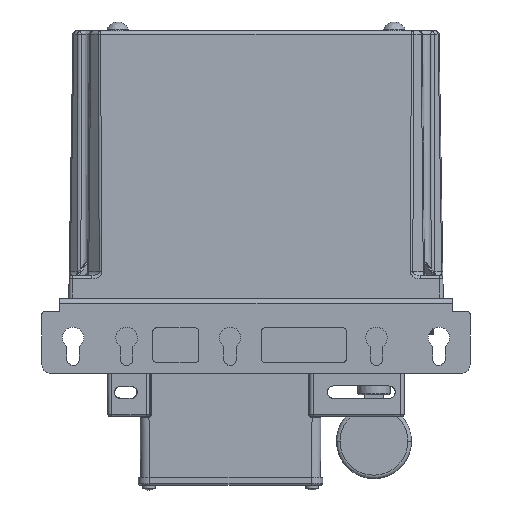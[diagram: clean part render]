
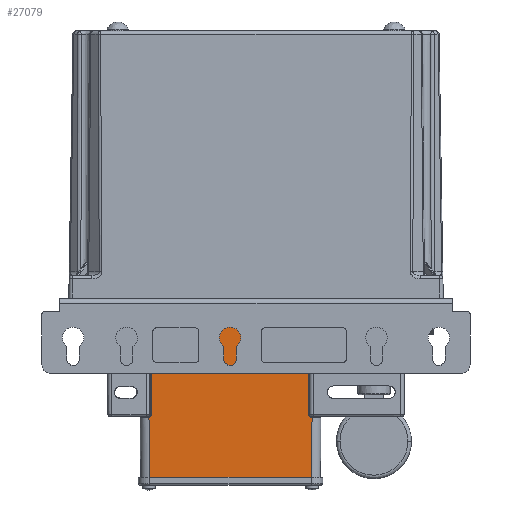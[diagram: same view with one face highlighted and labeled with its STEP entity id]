
A CAD part, front view. The second image highlights one B-rep face of the part: STEP entity #27079.
In plain terms, the highlighted planar face has unit normal (0, -1, -0.009).
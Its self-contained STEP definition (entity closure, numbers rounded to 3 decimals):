
#198 = CARTESIAN_POINT ( 'NONE',  ( 93.17, -42.385, -75.603 ) ) ;
#358 = CARTESIAN_POINT ( 'NONE',  ( 92.662, -42.377, -76.502 ) ) ;
#1700 = CARTESIAN_POINT ( 'NONE',  ( 181.187, -42.836, -23.92 ) ) ;
#1835 = ORIENTED_EDGE ( 'NONE', *, *, #22887, .T. ) ;
#2202 = CARTESIAN_POINT ( 'NONE',  ( 64.086, -42.893, -17.41 ) ) ;
#2362 = LINE ( 'NONE', #8229, #11951 ) ;
#2616 = AXIS2_PLACEMENT_3D ( 'NONE', #21567, #7883, #17983 ) ;
#3208 = LINE ( 'NONE', #40847, #21240 ) ;
#3482 = CARTESIAN_POINT ( 'NONE',  ( 91.701, -42.374, -76.899 ) ) ;
#3569 = CARTESIAN_POINT ( 'NONE',  ( 182.159, -42.375, -76.81 ) ) ;
#3642 = CARTESIAN_POINT ( 'NONE',  ( 92.082, -42.375, -76.834 ) ) ;
#3726 = CARTESIAN_POINT ( 'NONE',  ( 181.187, -42.537, -58.244 ) ) ;
#3967 = CARTESIAN_POINT ( 'NONE',  ( 92.948, -42.38, -76.178 ) ) ;
#4672 = ORIENTED_EDGE ( 'NONE', *, *, #29858, .T. ) ;
#4718 = ORIENTED_EDGE ( 'NONE', *, *, #19605, .T. ) ;
#6040 = EDGE_CURVE ( 'NONE', #24351, #46238, #12617, .T. ) ;
#6929 = CARTESIAN_POINT ( 'NONE',  ( 92.344, -42.376, -76.714 ) ) ;
#7235 = VERTEX_POINT ( 'NONE', #16378 ) ;
#7883 = DIRECTION ( 'NONE',  ( 0., -1., -0.009 ) ) ;
#8229 = CARTESIAN_POINT ( 'NONE',  ( 92.957, -42.893, -17.41 ) ) ;
#8757 = CARTESIAN_POINT ( 'NONE',  ( 181.187, -42.893, -17.41 ) ) ;
#9737 = DIRECTION ( 'NONE',  ( -1., 0., 0. ) ) ;
#10284 = LINE ( 'NONE', #17682, #23225 ) ;
#10392 = VERTEX_POINT ( 'NONE', #1700 ) ;
#10734 = DIRECTION ( 'NONE',  ( -0.009, -0.009, 1. ) ) ;
#11038 = DIRECTION ( 'NONE',  ( -1., 0., 0. ) ) ;
#11049 = CARTESIAN_POINT ( 'NONE',  ( 92.552, -42.377, -76.592 ) ) ;
#11127 = CARTESIAN_POINT ( 'NONE',  ( 181.187, -42.687, -41.082 ) ) ;
#11137 = CARTESIAN_POINT ( 'NONE',  ( 182.687, -42.374, -76.905 ) ) ;
#11210 = CARTESIAN_POINT ( 'NONE',  ( 92.429, -42.376, -76.667 ) ) ;
#11951 = VECTOR ( 'NONE', #19269, 1000. ) ;
#12407 = ORIENTED_EDGE ( 'NONE', *, *, #44310, .F. ) ;
#12617 = LINE ( 'NONE', #14200, #21081 ) ;
#13364 = FACE_OUTER_BOUND ( 'NONE', #21620, .T. ) ;
#13633 = EDGE_CURVE ( 'NONE', #7235, #24351, #10284, .T. ) ;
#14200 = CARTESIAN_POINT ( 'NONE',  ( 64.086, -42.374, -76.905 ) ) ;
#14295 = VERTEX_POINT ( 'NONE', #36669 ) ;
#14457 = CARTESIAN_POINT ( 'NONE',  ( 181.226, -42.384, -75.799 ) ) ;
#14759 = CARTESIAN_POINT ( 'NONE',  ( 181.556, -42.378, -76.396 ) ) ;
#14928 = CARTESIAN_POINT ( 'NONE',  ( 182.296, -42.374, -76.854 ) ) ;
#15927 = ORIENTED_EDGE ( 'NONE', *, *, #43053, .F. ) ;
#16378 = CARTESIAN_POINT ( 'NONE',  ( 182.787, -42.064, -112.41 ) ) ;
#16492 = CARTESIAN_POINT ( 'NONE',  ( 181.187, -42.893, -17.41 ) ) ;
#16874 = CARTESIAN_POINT ( 'NONE',  ( 92.957, -42.893, -17.41 ) ) ;
#17404 = ORIENTED_EDGE ( 'NONE', *, *, #44196, .T. ) ;
#17682 = CARTESIAN_POINT ( 'NONE',  ( 182.787, -42.064, -112.41 ) ) ;
#17983 = DIRECTION ( 'NONE',  ( 0., 0.009, -1. ) ) ;
#18171 = CARTESIAN_POINT ( 'NONE',  ( 92.798, -42.379, -76.365 ) ) ;
#18257 = CARTESIAN_POINT ( 'NONE',  ( 182.204, -42.375, -76.826 ) ) ;
#18572 = CARTESIAN_POINT ( 'NONE',  ( 181.387, -42.38, -76.157 ) ) ;
#19170 = DIRECTION ( 'NONE',  ( -1., 0., 0. ) ) ;
#19269 = DIRECTION ( 'NONE',  ( 0.004, 0.009, -1. ) ) ;
#19605 = EDGE_CURVE ( 'NONE', #10392, #25075, #20863, .T. ) ;
#19936 = CARTESIAN_POINT ( 'NONE',  ( 181.187, -42.874, -19.58 ) ) ;
#20863 = B_SPLINE_CURVE_WITH_KNOTS ( 'NONE', 3,
 ( #37840, #44915, #19936, #16492 ),
 .UNSPECIFIED., .F., .F.,
 ( 4, 4 ),
 ( 0., 1. ),
 .UNSPECIFIED. ) ;
#20939 = PLANE ( 'NONE',  #2616 ) ;
#21081 = VECTOR ( 'NONE', #11038, 1000. ) ;
#21240 = VECTOR ( 'NONE', #19170, 1000. ) ;
#21300 = CARTESIAN_POINT ( 'NONE',  ( 93.017, -42.381, -76.053 ) ) ;
#21567 = CARTESIAN_POINT ( 'NONE',  ( 64.086, -42.893, -17.41 ) ) ;
#21620 = EDGE_LOOP ( 'NONE', ( #42132, #39755, #46182, #17404, #4718, #4672, #1835, #25639, #15927, #12407 ) ) ;
#21922 = CARTESIAN_POINT ( 'NONE',  ( 93.132, -42.384, -75.788 ) ) ;
#22887 = EDGE_CURVE ( 'NONE', #34490, #30038, #2362, .T. ) ;
#23225 = VECTOR ( 'NONE', #35559, 1000. ) ;
#24351 = VERTEX_POINT ( 'NONE', #45274 ) ;
#25075 = VERTEX_POINT ( 'NONE', #8757 ) ;
#25139 = CARTESIAN_POINT ( 'NONE',  ( 182.437, -42.374, -76.89 ) ) ;
#25205 = CARTESIAN_POINT ( 'NONE',  ( 92.861, -42.379, -76.292 ) ) ;
#25375 = CARTESIAN_POINT ( 'NONE',  ( 91.897, -42.374, -76.881 ) ) ;
#25453 = CARTESIAN_POINT ( 'NONE',  ( 181.187, -42.836, -23.92 ) ) ;
#25540 = CARTESIAN_POINT ( 'NONE',  ( 92.011, -42.064, -112.41 ) ) ;
#25639 = ORIENTED_EDGE ( 'NONE', *, *, #34040, .T. ) ;
#27079 = ADVANCED_FACE ( 'NONE', ( #13364 ), #20939, .T. ) ;
#28753 = CARTESIAN_POINT ( 'NONE',  ( 181.463, -42.379, -76.283 ) ) ;
#29080 = CARTESIAN_POINT ( 'NONE',  ( 181.929, -42.376, -76.715 ) ) ;
#29227 = CARTESIAN_POINT ( 'NONE',  ( 181.187, -42.387, -75.405 ) ) ;
#29858 = EDGE_CURVE ( 'NONE', #25075, #34490, #30178, .T. ) ;
#30038 = VERTEX_POINT ( 'NONE', #44394 ) ;
#30178 = LINE ( 'NONE', #2202, #32981 ) ;
#30454 = EDGE_CURVE ( 'NONE', #46238, #41731, #39984, .T. ) ;
#32368 = CARTESIAN_POINT ( 'NONE',  ( 181.341, -42.381, -76.07 ) ) ;
#32742 = CARTESIAN_POINT ( 'NONE',  ( 92.764, -42.378, -76.402 ) ) ;
#32981 = VECTOR ( 'NONE', #9737, 1000. ) ;
#33169 = B_SPLINE_CURVE_WITH_KNOTS ( 'NONE', 3,
 ( #29227, #3726, #11127, #25453 ),
 .UNSPECIFIED., .F., .F.,
 ( 4, 4 ),
 ( 0., 1. ),
 .UNSPECIFIED. ) ;
#34040 = EDGE_CURVE ( 'NONE', #30038, #14295, #38928, .T. ) ;
#34490 = VERTEX_POINT ( 'NONE', #16874 ) ;
#34788 = LINE ( 'NONE', #43434, #43792 ) ;
#35559 = DIRECTION ( 'NONE',  ( 0.009, -0.009, 1. ) ) ;
#35984 = CARTESIAN_POINT ( 'NONE',  ( 181.319, -42.382, -76.023 ) ) ;
#36139 = CARTESIAN_POINT ( 'NONE',  ( 181.187, -42.387, -75.405 ) ) ;
#36370 = CARTESIAN_POINT ( 'NONE',  ( 92.299, -42.375, -76.737 ) ) ;
#36669 = CARTESIAN_POINT ( 'NONE',  ( 91.701, -42.374, -76.899 ) ) ;
#37840 = CARTESIAN_POINT ( 'NONE',  ( 181.187, -42.836, -23.92 ) ) ;
#38928 = B_SPLINE_CURVE_WITH_KNOTS ( 'NONE', 3,
 ( #43439, #198, #21922, #21300, #3967, #25205, #18171, #32742, #358, #11049, #11210, #6929, #36370, #3642, #25375, #3482 ),
 .UNSPECIFIED., .F., .F.,
 ( 4, 2, 1, 2, 2, 1, 2, 2, 4 ),
 ( 0., 0.25, 0.375, 0.437, 0.5, 0.625, 0.688, 0.75, 1. ),
 .UNSPECIFIED. ) ;
#39167 = VERTEX_POINT ( 'NONE', #25540 ) ;
#39604 = CARTESIAN_POINT ( 'NONE',  ( 181.188, -42.385, -75.608 ) ) ;
#39755 = ORIENTED_EDGE ( 'NONE', *, *, #6040, .T. ) ;
#39984 = B_SPLINE_CURVE_WITH_KNOTS ( 'NONE', 3,
 ( #11137, #46650, #25139, #14928, #18257, #3569, #29080, #40077, #14759, #28753, #18572, #32368, #35984, #14457, #39604, #43216 ),
 .UNSPECIFIED., .F., .F.,
 ( 4, 1, 2, 2, 2, 1, 2, 2, 4 ),
 ( 0., 0.125, 0.187, 0.25, 0.5, 0.625, 0.687, 0.75, 1. ),
 .UNSPECIFIED. ) ;
#40077 = CARTESIAN_POINT ( 'NONE',  ( 181.766, -42.376, -76.606 ) ) ;
#40847 = CARTESIAN_POINT ( 'NONE',  ( 151.687, -42.064, -112.41 ) ) ;
#41731 = VERTEX_POINT ( 'NONE', #36139 ) ;
#41962 = CARTESIAN_POINT ( 'NONE',  ( 182.687, -42.374, -76.905 ) ) ;
#42132 = ORIENTED_EDGE ( 'NONE', *, *, #13633, .T. ) ;
#43053 = EDGE_CURVE ( 'NONE', #39167, #14295, #34788, .T. ) ;
#43216 = CARTESIAN_POINT ( 'NONE',  ( 181.187, -42.387, -75.405 ) ) ;
#43434 = CARTESIAN_POINT ( 'NONE',  ( 92.015, -42.06, -112.886 ) ) ;
#43439 = CARTESIAN_POINT ( 'NONE',  ( 93.171, -42.387, -75.405 ) ) ;
#43792 = VECTOR ( 'NONE', #10734, 1000. ) ;
#44196 = EDGE_CURVE ( 'NONE', #41731, #10392, #33169, .T. ) ;
#44310 = EDGE_CURVE ( 'NONE', #7235, #39167, #3208, .T. ) ;
#44394 = CARTESIAN_POINT ( 'NONE',  ( 93.171, -42.387, -75.405 ) ) ;
#44915 = CARTESIAN_POINT ( 'NONE',  ( 181.187, -42.855, -21.75 ) ) ;
#45274 = CARTESIAN_POINT ( 'NONE',  ( 183.097, -42.374, -76.905 ) ) ;
#46182 = ORIENTED_EDGE ( 'NONE', *, *, #30454, .T. ) ;
#46238 = VERTEX_POINT ( 'NONE', #41962 ) ;
#46650 = CARTESIAN_POINT ( 'NONE',  ( 182.585, -42.374, -76.904 ) ) ;
